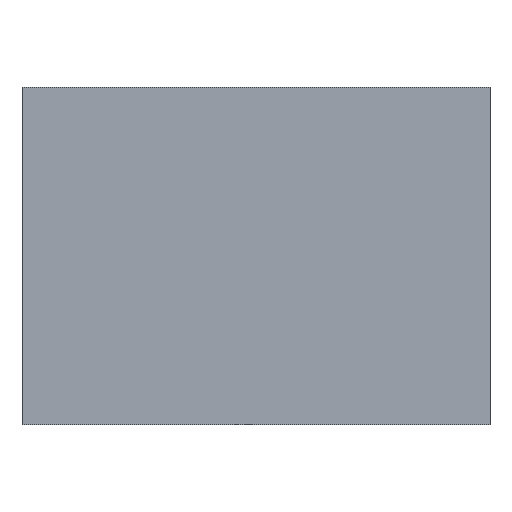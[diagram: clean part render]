
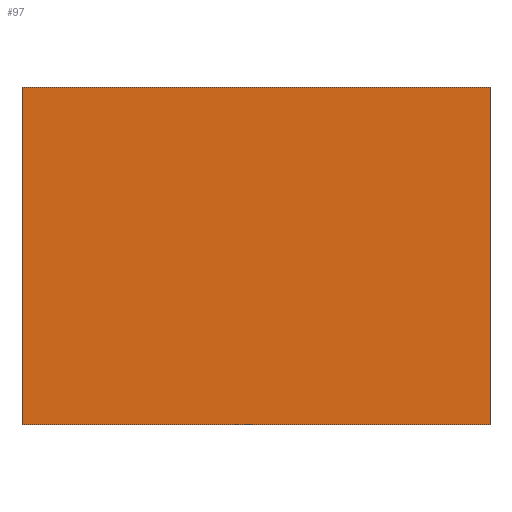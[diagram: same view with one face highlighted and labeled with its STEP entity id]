
A CAD part, front view. The second image highlights one B-rep face of the part: STEP entity #97.
In plain terms, the highlighted planar face has unit normal (0, -1, 0).
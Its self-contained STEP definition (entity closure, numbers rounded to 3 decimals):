
#21 = EDGE_CURVE('',#22,#24,#26,.T.);
#22 = VERTEX_POINT('',#23);
#23 = CARTESIAN_POINT('',(-430.,-170.,0.));
#24 = VERTEX_POINT('',#25);
#25 = CARTESIAN_POINT('',(-430.,-170.,620.));
#26 = LINE('',#27,#28);
#27 = CARTESIAN_POINT('',(-430.,-170.,0.));
#28 = VECTOR('',#29,1.);
#29 = DIRECTION('',(0.,0.,1.));
#61 = EDGE_CURVE('',#62,#64,#66,.T.);
#62 = VERTEX_POINT('',#63);
#63 = CARTESIAN_POINT('',(430.,-170.,0.));
#64 = VERTEX_POINT('',#65);
#65 = CARTESIAN_POINT('',(430.,-170.,620.));
#66 = LINE('',#67,#68);
#67 = CARTESIAN_POINT('',(430.,-170.,0.));
#68 = VECTOR('',#69,1.);
#69 = DIRECTION('',(0.,0.,1.));
#97 = ADVANCED_FACE('',(#98),#114,.F.);
#98 = FACE_BOUND('',#99,.F.);
#99 = EDGE_LOOP('',(#100,#106,#107,#113));
#100 = ORIENTED_EDGE('',*,*,#101,.F.);
#101 = EDGE_CURVE('',#22,#62,#102,.T.);
#102 = LINE('',#103,#104);
#103 = CARTESIAN_POINT('',(-430.,-170.,0.));
#104 = VECTOR('',#105,1.);
#105 = DIRECTION('',(1.,0.,-0.));
#106 = ORIENTED_EDGE('',*,*,#21,.T.);
#107 = ORIENTED_EDGE('',*,*,#108,.T.);
#108 = EDGE_CURVE('',#24,#64,#109,.T.);
#109 = LINE('',#110,#111);
#110 = CARTESIAN_POINT('',(-430.,-170.,620.));
#111 = VECTOR('',#112,1.);
#112 = DIRECTION('',(1.,0.,-0.));
#113 = ORIENTED_EDGE('',*,*,#61,.F.);
#114 = PLANE('',#115);
#115 = AXIS2_PLACEMENT_3D('',#116,#117,#118);
#116 = CARTESIAN_POINT('',(-430.,-170.,0.));
#117 = DIRECTION('',(-0.,1.,0.));
#118 = DIRECTION('',(0.,0.,1.));
